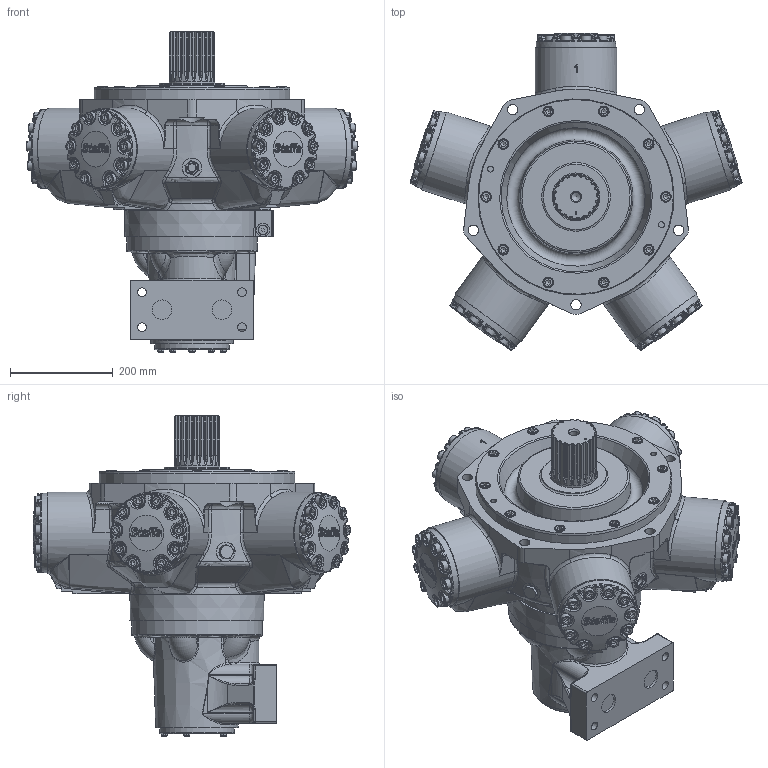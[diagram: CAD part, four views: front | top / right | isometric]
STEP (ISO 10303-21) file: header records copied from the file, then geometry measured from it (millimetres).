
FILE_DESCRIPTION(/* description */ (''),/* implementation_level */ '2;1');
FILE_NAME(/* name */ 'HMC200_P1_SM4_C_70.stp',/* time_stamp */ '2025-06-20T08:48:34+01:00',/* author */ ('ccallanga'),/* organization */ (''),/* preprocessor_version */ 'ST-DEVELOPER v20',/* originating_system */ 'Autodesk Inventor 2024',/* authorisation */ '');
FILE_SCHEMA (('AUTOMOTIVE_DESIGN { 1 0 10303 214 3 1 1 }'));
Products named in the file (1): 017751 HMC200 Web Assembly_Simplify_1
Bounding box: 645.1 x 616.02 x 621.91 mm (x, y, z)
Volume: 50745141 mm3; surface area: 1315694.3 mm2
Topology: 1 solids, 1 shells, 4724 faces, 11580 edges, 6897 vertices
Faces by surface type: bspline 1709, plane 1210, cylinder 1034, torus 462, cone 181, sphere 128
Full cylindrical faces by diameter (mm): 2.2 x4, 4 x1, 4.134 x4, 5.5 x4, 9.4 x1, 11.328 x2, 11.913 x5, 12 x1, 12.7 x5, 16.51 x1, 17 x4, 17.323 x1, 19 x1, 19.05 x60, 20 x5, 20.637 x60, 23.825 x5, 25 x5, 25.4 x5, 26.92 x2, 38 x2, 38.1 x3, 87.889 x1, 88.837 x1, 92.964 x1, 127 x1, 146.05 x1, 254 x1, 380.91 x1
Entity records: 238822 total; most frequent: CARTESIAN_POINT 136138, ORIENTED_EDGE 22736, DIRECTION 16560, EDGE_CURVE 11368, VERTEX_POINT 6897, AXIS2_PLACEMENT_3D 6562, EDGE_LOOP 4993, STYLED_ITEM 4725
